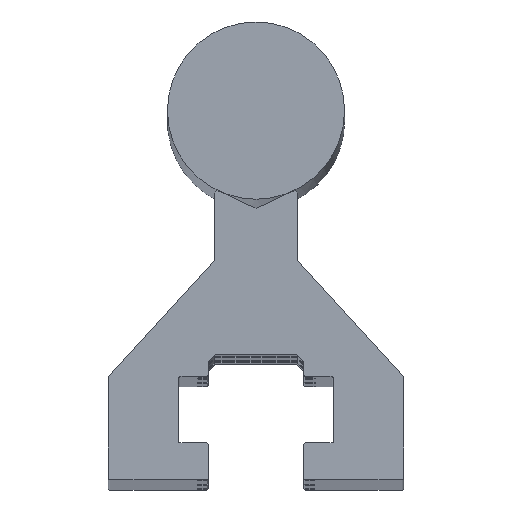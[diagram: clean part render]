
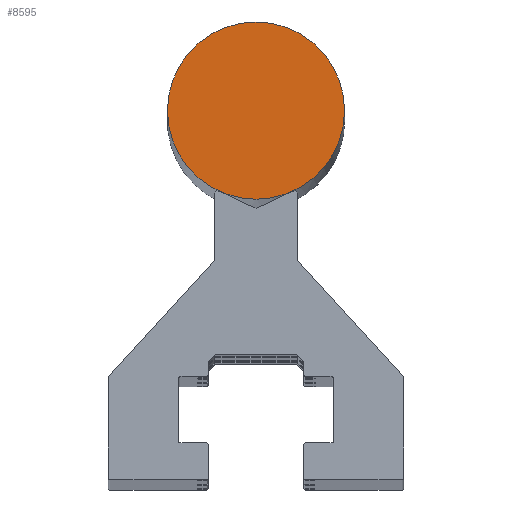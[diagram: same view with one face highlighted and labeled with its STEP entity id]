
A CAD part, top view. The second image highlights one B-rep face of the part: STEP entity #8595.
In plain terms, the highlighted planar face has unit normal (0, 0, 1).
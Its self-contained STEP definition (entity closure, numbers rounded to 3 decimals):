
#380 = CIRCLE ( 'NONE', #5304, 6. ) ;
#1570 = CARTESIAN_POINT ( 'NONE',  ( 6., 25., 1. ) ) ;
#2703 = DIRECTION ( 'NONE',  ( 0., 0., 1. ) ) ;
#4010 = VERTEX_POINT ( 'NONE', #1570 ) ;
#5304 = AXIS2_PLACEMENT_3D ( 'NONE', #7495, #7472, #7462 ) ;
#5590 = DIRECTION ( 'NONE',  ( 1., 0., 0. ) ) ;
#5617 = PLANE ( 'NONE',  #6129 ) ;
#5637 = CARTESIAN_POINT ( 'NONE',  ( 0., 25., 1. ) ) ;
#6129 = AXIS2_PLACEMENT_3D ( 'NONE', #5637, #2703, #5590 ) ;
#6325 = EDGE_LOOP ( 'NONE', ( #6523 ) ) ;
#6523 = ORIENTED_EDGE ( 'NONE', *, *, #7968, .T. ) ;
#7462 = DIRECTION ( 'NONE',  ( 1., 0., 0. ) ) ;
#7472 = DIRECTION ( 'NONE',  ( 0., 0., 1. ) ) ;
#7495 = CARTESIAN_POINT ( 'NONE',  ( 0., 25., 1. ) ) ;
#7968 = EDGE_CURVE ( 'NONE', #4010, #4010, #380, .T. ) ;
#8505 = FACE_OUTER_BOUND ( 'NONE', #6325, .T. ) ;
#8595 = ADVANCED_FACE ( 'NONE', ( #8505 ), #5617, .T. ) ;
